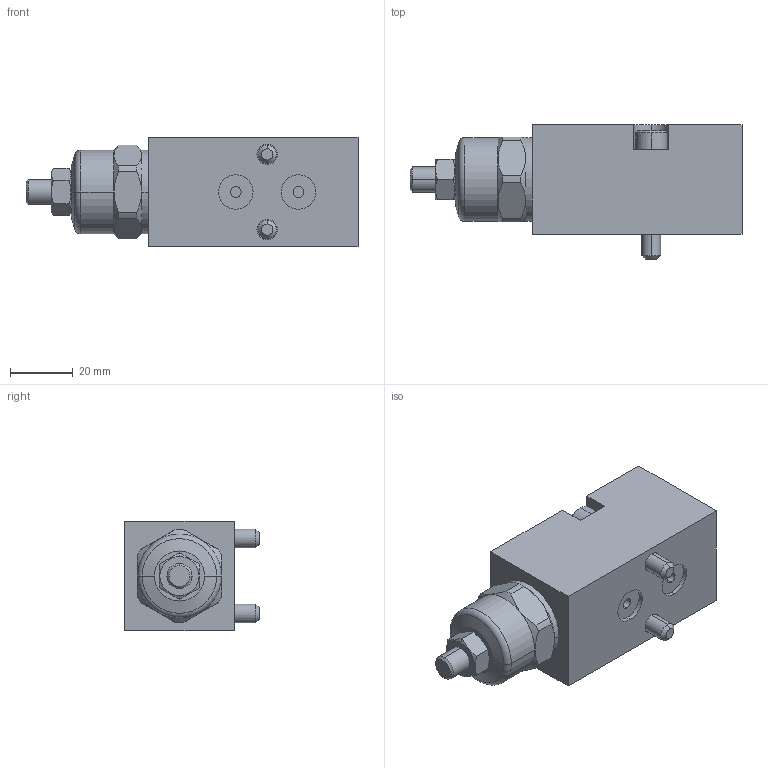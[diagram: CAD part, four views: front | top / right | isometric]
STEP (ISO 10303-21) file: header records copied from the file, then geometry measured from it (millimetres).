
FILE_DESCRIPTION(/* description */ (''),/* implementation_level */ '2;1');
FILE_NAME(/* name */ 'BGT2830-0G.stp',/* time_stamp */ '2022-11-21T16:30:44+08:00',/* author */ (''),/* organization */ (''),/* preprocessor_version */ 'ST-DEVELOPER v16.7',/* originating_system */ 'SIEMENS PLM Software NX 12.0',/* authorisation */ '');
FILE_SCHEMA (('AP203_CONFIGURATION_CONTROLLED_3D_DESIGN_OF_MECHANICAL_PARTS_AND_ASSEMBLIES_MIM_LF { 1 0 10303 403 2 1 2}'));
Length unit declared in the file: millimetre
Products named in the file (7): BGT-05; BGT-06; BGT-04; BGT-03; BGT-02; BGT-01; BLG2xx0-0G_step
Assembly tree (7 placements, depth 2):
  BLG2xx0-0G_step
    BGT-01
    BGT-02
    BGT-03
    BGT-04
    BGT-06  x2
    BGT-05
Bounding box: 106 x 43 x 35 mm (x, y, z)
Volume: 95917.4 mm3; surface area: 21511.7 mm2
Topology: 7 solids, 7 shells, 185 faces, 401 edges, 237 vertices
Faces by surface type: plane 86, cylinder 49, cone 46, sphere 2, torus 2
Entity records: 5194 total; most frequent: CARTESIAN_POINT 897, DIRECTION 765, ORIENTED_EDGE 690, EDGE_CURVE 345, AXIS2_PLACEMENT_3D 304, VERTEX_POINT 212, EDGE_LOOP 171, LINE 157
